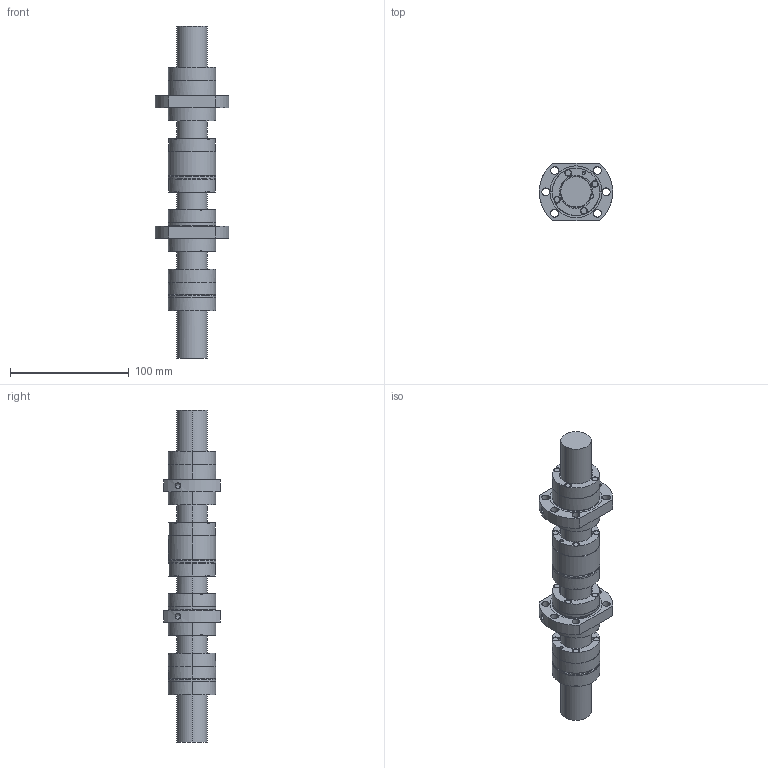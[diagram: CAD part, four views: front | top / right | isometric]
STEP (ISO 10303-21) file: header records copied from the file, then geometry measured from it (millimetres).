
FILE_DESCRIPTION(('Creo Elements/Direct Modeling STEP Export'),'2;1');
FILE_NAME('HSB-KGT-M-2505RH-1g.stp','2015-05-08T11:35:32',(''),(''),'Creo Elements/Direct Modeling STEP processor for AP214 (Solid Model)','Creo Elements/Direct Modeling 18.1F 24-Jul-2014 (C) Parametric Technology GmbH','');
FILE_SCHEMA(('AUTOMOTIVE_DESIGN { 1 0 10303 214 1 1 1 1 }'));
Length unit declared in the file: millimetre
Products named in the file (5): HSB-KGM-F-2505RH-1g_23123; HSB-KGM-FL-2505-1g_23199; HSB-KGM-M-2505RH-1g_20580; HSB-KGM-ML-2505RH-1g_20600; HSB-KGS-2505RH-1g-T7_23875
Bounding box: 61.8 x 48 x 280 mm (x, y, z)
Volume: 285692.4 mm3; surface area: 71933.2 mm2
Topology: 5 solids, 5 shells, 351 faces, 1042 edges, 715 vertices
Faces by surface type: cylinder 170, cone 100, plane 74, torus 7
Entity records: 16716 total; most frequent: CARTESIAN_POINT 5325, ORIENTED_EDGE 2052, DIRECTION 1558, EDGE_CURVE 1026, VERTEX_POINT 715, AXIS2_PLACEMENT_3D 632, EDGE_LOOP 413, COLOUR_RGB 356
